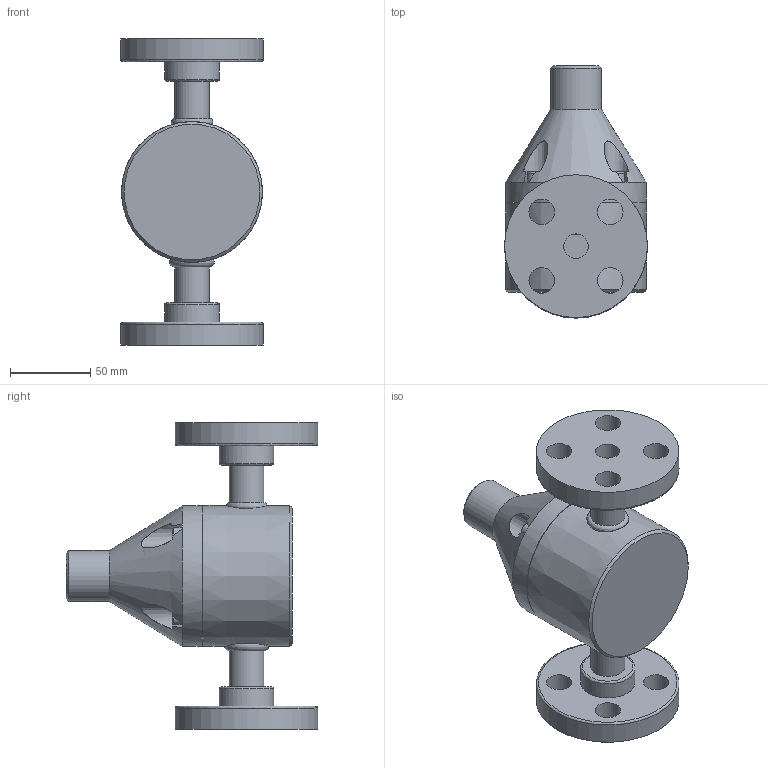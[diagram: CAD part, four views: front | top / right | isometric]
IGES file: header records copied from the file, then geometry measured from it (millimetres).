
Start section: SolidWorks IGES file using analytic representation for surfaces
Global section: file name: F:\Griffco-Valve\Griffco_current-projects\GV_web-files_2015\G Series Flanged\GBP0500-FLNG.IGS; native system: SolidWorks 2014; preprocessor: SolidWorks 2014; author: Dan; date: 160212.042726; units: inch
Bounding box: 88.9 x 156.84 x 190.5 mm (x, y, z)
Surface area: 88924.1 mm2 (no closed solid volume)
Topology: 0 solids, 0 shells, 124 faces, 529 edges, 488 vertices
Faces by surface type: bspline 78, revolution 46
